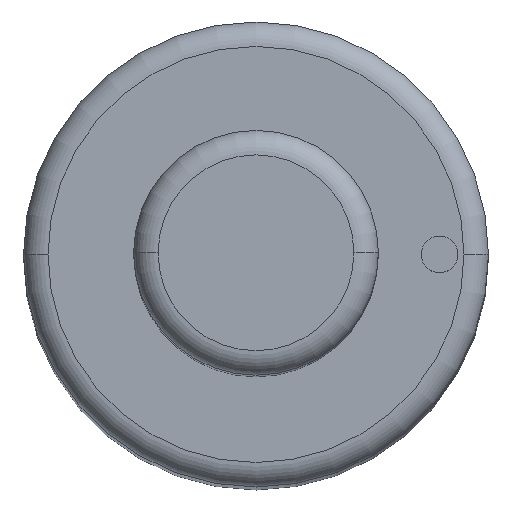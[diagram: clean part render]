
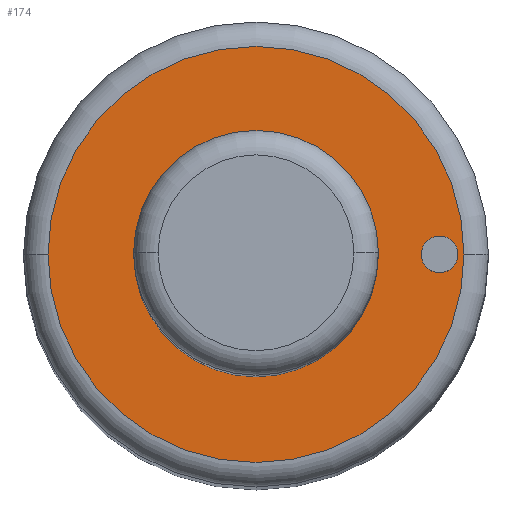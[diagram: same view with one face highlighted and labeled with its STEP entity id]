
A CAD part, top view. The second image highlights one B-rep face of the part: STEP entity #174.
In plain terms, the highlighted planar face has unit normal (0, 0, 1).
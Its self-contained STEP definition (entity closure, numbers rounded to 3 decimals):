
#99=FACE_BOUND('',#225,.T.);
#100=FACE_BOUND('',#226,.T.);
#101=FACE_BOUND('',#227,.T.);
#174=ADVANCED_FACE('',(#99,#100,#101),#180,.T.);
#180=PLANE('',#475);
#225=EDGE_LOOP('',(#307,#308));
#226=EDGE_LOOP('',(#309,#310));
#227=EDGE_LOOP('',(#311,#312));
#307=ORIENTED_EDGE('',*,*,#367,.F.);
#308=ORIENTED_EDGE('',*,*,#368,.F.);
#309=ORIENTED_EDGE('',*,*,#390,.F.);
#310=ORIENTED_EDGE('',*,*,#391,.F.);
#311=ORIENTED_EDGE('',*,*,#363,.T.);
#312=ORIENTED_EDGE('',*,*,#361,.T.);
#329=VERTEX_POINT('',#630);
#330=VERTEX_POINT('',#632);
#331=VERTEX_POINT('',#638);
#334=VERTEX_POINT('',#643);
#346=VERTEX_POINT('',#692);
#347=VERTEX_POINT('',#693);
#361=EDGE_CURVE('',#330,#329,#404,.T.);
#363=EDGE_CURVE('',#329,#330,#405,.T.);
#367=EDGE_CURVE('',#334,#331,#409,.T.);
#368=EDGE_CURVE('',#331,#334,#410,.T.);
#390=EDGE_CURVE('',#346,#347,#422,.T.);
#391=EDGE_CURVE('',#347,#346,#423,.T.);
#404=CIRCLE('',#440,5.);
#405=CIRCLE('',#442,5.);
#409=CIRCLE('',#447,8.5);
#410=CIRCLE('',#449,8.5);
#422=CIRCLE('',#473,0.75);
#423=CIRCLE('',#474,0.75);
#440=AXIS2_PLACEMENT_3D('',#631,#512,#513);
#442=AXIS2_PLACEMENT_3D('',#635,#517,#518);
#447=AXIS2_PLACEMENT_3D('',#644,#527,#528);
#449=AXIS2_PLACEMENT_3D('',#646,#531,#532);
#473=AXIS2_PLACEMENT_3D('',#691,#589,#590);
#474=AXIS2_PLACEMENT_3D('',#694,#591,#592);
#475=AXIS2_PLACEMENT_3D('',#695,#593,#594);
#512=DIRECTION('',(0.,0.,-1.));
#513=DIRECTION('',(0.,1.,0.));
#517=DIRECTION('',(0.,0.,-1.));
#518=DIRECTION('',(0.,-1.,0.));
#527=DIRECTION('',(0.,0.,-1.));
#528=DIRECTION('',(0.,1.,0.));
#531=DIRECTION('',(0.,0.,-1.));
#532=DIRECTION('',(0.,-1.,0.));
#589=DIRECTION('',(0.,0.,1.));
#590=DIRECTION('',(0.,1.,0.));
#591=DIRECTION('',(0.,0.,1.));
#592=DIRECTION('',(0.,-1.,0.));
#593=DIRECTION('',(0.,0.,1.));
#594=DIRECTION('',(0.,-1.,0.));
#630=CARTESIAN_POINT('',(-5.,0.,72.));
#631=CARTESIAN_POINT('',(0.,0.,72.));
#632=CARTESIAN_POINT('',(5.,0.,72.));
#635=CARTESIAN_POINT('',(0.,0.,72.));
#638=CARTESIAN_POINT('',(-8.5,0.,72.));
#643=CARTESIAN_POINT('',(8.5,0.,72.));
#644=CARTESIAN_POINT('',(0.,0.,72.));
#646=CARTESIAN_POINT('',(0.,0.,72.));
#691=CARTESIAN_POINT('',(7.5,0.,72.));
#692=CARTESIAN_POINT('',(6.75,0.,72.));
#693=CARTESIAN_POINT('',(8.25,0.,72.));
#694=CARTESIAN_POINT('',(7.5,0.,72.));
#695=CARTESIAN_POINT('',(0.,0.,72.));
